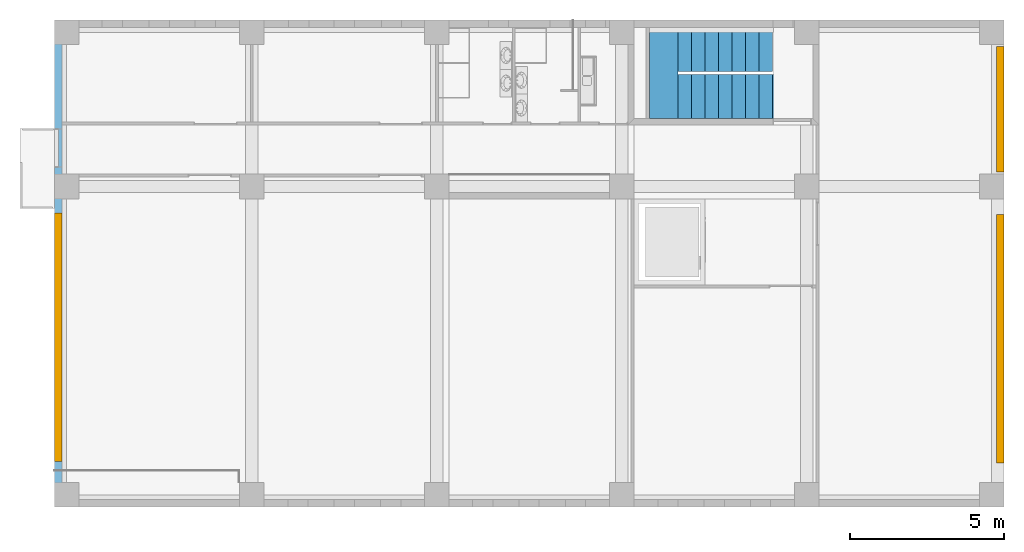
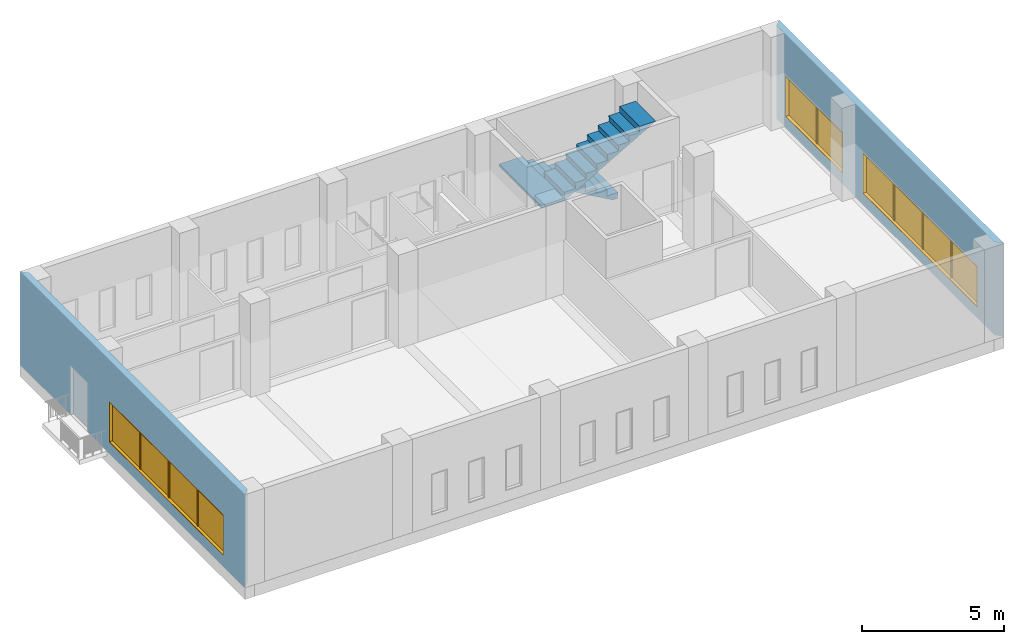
# One storey, part 5 of 14: 3 windows, 1 stair, 4 openings, plus 2 elements that do not belong to this part.
"""IFC2X3 building model written with IfcOpenShell, lengths in millimetres."""

import ifcopenshell
import ifcopenshell.guid

model = None  # the IFC model being written
_history = None  # IfcOwnerHistory: only IFC2X3 demands one
_inside = {}  # id of a spatial element -> (the spatial element, [elements in it])
_under = {}  # id of a project, library or spatial element -> (it, [spatial elements below it])
_declared = {}  # id of a project -> (the project, [libraries it declares])
_typed = {}  # id of a type object -> (the type object, [elements of that type])
_made_of = {}  # id of a material, layer set ... -> (it, [elements and type objects made of it])


def new_model(schema):
    """Start an empty IFC model of exactly this schema.

    Asked for "IFC4X3", IfcOpenShell would pick the latest addendum, in which some entities
    have other attributes; the version numbers below select the first issue.
    IFC2X3 requires an IfcOwnerHistory on every rooted entity: one is made here for all.
    """
    global model, _history
    if schema == "IFC4X3":
        model = ifcopenshell.file(schema_version=(4, 3, 0, 0))
    else:
        model = ifcopenshell.file(schema=schema)
    _inside.clear()
    _under.clear()
    _declared.clear()
    _typed.clear()
    _made_of.clear()
    _history = None
    if model.schema == "IFC2X3":
        org = make("IfcOrganization", Name="unknown")
        user = make(
            "IfcPersonAndOrganization",
            ThePerson=make("IfcPerson", FamilyName="unknown"),
            TheOrganization=org,
        )
        app = make(
            "IfcApplication",
            ApplicationDeveloper=org,
            Version="unknown",
            ApplicationFullName="unknown",
            ApplicationIdentifier="unknown",
        )
        _history = make(
            "IfcOwnerHistory",
            OwningUser=user,
            OwningApplication=app,
            ChangeAction="ADDED",
            CreationDate=0,
        )
    return model


def make(cls, **values):
    """One entity of the class cls with the attributes given. An attribute that is None is left unset."""
    return model.create_entity(
        cls, **{name: value for name, value in values.items() if value is not None}
    )


def entity(cls, *values):
    """Any entity or typed value of the class cls, its attributes in the order of the schema. None: left unset."""
    e = model.create_entity(cls)
    for i, value in enumerate(values):
        if value is not None:
            e[i] = value
    return e


def rooted(cls, **values):
    """An entity with a GlobalId (a new one), such as an element, a storey or a relation."""
    return make(cls, GlobalId=ifcopenshell.guid.new(), OwnerHistory=_history, **values)


def si_unit(unit_type, name, prefix=None):
    """IfcSIUnit, for example si_unit("LENGTHUNIT", "METRE", prefix="MILLI")."""
    return make("IfcSIUnit", UnitType=unit_type, Prefix=prefix, Name=name)


def converted_unit(unit_type, name, factor, base, dimensions=None, offset=None):
    """IfcConversionBasedUnit, such as the inch: factor (a typed value) times the base unit."""
    return make(
        "IfcConversionBasedUnit"
        if offset is None
        else "IfcConversionBasedUnitWithOffset",
        ConversionOffset=offset,
        Dimensions=None
        if dimensions is None
        else entity("IfcDimensionalExponents", *dimensions),
        UnitType=unit_type,
        Name=name,
        ConversionFactor=make(
            "IfcMeasureWithUnit", ValueComponent=factor, UnitComponent=base
        ),
    )


def assignment(units):
    """IfcUnitAssignment: the units of a project."""
    return None if units is None else make("IfcUnitAssignment", Units=units)


def point(xyz):
    """IfcCartesianPoint."""
    return None if xyz is None else make("IfcCartesianPoint", Coordinates=xyz)


def direction(xyz):
    """IfcDirection."""
    return None if xyz is None else make("IfcDirection", DirectionRatios=xyz)


def frame(location, z_axis=None, x_axis=None):
    """IfcAxis2Placement3D, a coordinate frame: its origin and axes. An axis left out is left unset."""
    return make(
        "IfcAxis2Placement3D",
        Location=point(location),
        Axis=direction(z_axis),
        RefDirection=direction(x_axis),
    )


def frame_2d(location, x_axis=None):
    """IfcAxis2Placement2D, a coordinate frame in the plane: its origin and x axis."""
    return make(
        "IfcAxis2Placement2D", Location=point(location), RefDirection=direction(x_axis)
    )


def origin_with_axes():
    """The frame at (0, 0, 0) with the z axis (0, 0, 1) and the x axis (1, 0, 0) written out."""
    return frame((0.0, 0.0, 0.0), z_axis=(0.0, 0.0, 1.0), x_axis=(1.0, 0.0, 0.0))


def origin_2d_with_axis():
    """The frame at (0, 0) in the plane with the x axis (1, 0) written out."""
    return frame_2d((0.0, 0.0), x_axis=(1.0, 0.0))


def place(relative_to, where):
    """IfcLocalPlacement: puts the frame where relative to a parent placement (None: the world)."""
    return make(
        "IfcLocalPlacement", PlacementRelTo=relative_to, RelativePlacement=where
    )


def context(
    kind, dimensions, precision=None, world=None, true_north=None, identifier=None
):
    """IfcGeometricRepresentationContext, for example the 3D "Model" context."""
    return make(
        "IfcGeometricRepresentationContext",
        ContextIdentifier=identifier,
        ContextType=kind,
        CoordinateSpaceDimension=dimensions,
        Precision=precision,
        WorldCoordinateSystem=world,
        TrueNorth=true_north,
    )


def project(units=None, contexts=None):
    """IfcProject with its units and contexts."""
    return rooted(
        "IfcProject",
        Name="project",
        RepresentationContexts=contexts,
        UnitsInContext=assignment(units),
    )


def spatial(cls, under=None, at=None, **own):
    """A site, building, storey or space (cls), placed at a placement, below another one or the project."""
    s = rooted(cls, ObjectPlacement=at, **own)
    if under is not None:
        _under.setdefault(under.id(), (under, []))[1].append(s)
    return s


def polyline(points):
    """IfcPolyline through the points."""
    return make("IfcPolyline", Points=[point(p) for p in points])


def profile(cls, at=None, kind="AREA", **sizes):
    """A parametric profile (cls). Its sizes go by their IFC names, for example OverallWidth=200.0."""
    return make(cls, ProfileType=kind, Position=at, **sizes)


def rectangle(**sizes):
    """IfcRectangleProfileDef."""
    return profile("IfcRectangleProfileDef", **sizes)


def outline(outer, holes=None, kind="AREA"):
    """IfcArbitraryClosedProfileDef: a profile drawn as a closed curve; with holes, ...WithVoids."""
    if holes is None:
        return make("IfcArbitraryClosedProfileDef", ProfileType=kind, OuterCurve=outer)
    return make(
        "IfcArbitraryProfileDefWithVoids",
        ProfileType=kind,
        OuterCurve=outer,
        InnerCurves=holes,
    )


def extrude(swept, where, along, depth):
    """IfcExtrudedAreaSolid: the profile swept, set in the frame where, extruded along a direction by depth."""
    return make(
        "IfcExtrudedAreaSolid",
        SweptArea=swept,
        Position=where,
        ExtrudedDirection=direction(along),
        Depth=depth,
    )


def faces_of(points, faces, orient=None, outer=None):
    """IfcFace entities. A face is a list of loops; a loop is a list of indices into points, from 0.

    orient and outer hold one flag for each loop. By default every Orientation is true, the
    first loop of a face is its IfcFaceOuterBound and the others are IfcFaceBound.
    """
    made = []
    for i, loops in enumerate(faces):
        bounds = []
        for j, loop in enumerate(loops):
            is_outer = j == 0 if outer is None else outer[i][j]
            bounds.append(
                make(
                    "IfcFaceOuterBound" if is_outer else "IfcFaceBound",
                    Bound=make("IfcPolyLoop", Polygon=[points[k] for k in loop]),
                    Orientation=True if orient is None else orient[i][j],
                )
            )
        made.append(make("IfcFace", Bounds=bounds))
    return made


def open_shell(faces, orient=None, outer=None):
    """The faces of one IfcOpenShell. surface_model builds it on its shared points."""
    return ("IfcOpenShell", faces, orient, outer)


def faceted_brep(points, faces, orient=None, outer=None, voids=None):
    """IfcFacetedBrep: a solid bounded by flat faces; with voids (closed shells), ...WithVoids."""
    shared = [point(p) for p in points]
    hull = make("IfcClosedShell", CfsFaces=faces_of(shared, faces, orient, outer))
    if voids is None:
        return make("IfcFacetedBrep", Outer=hull)
    return make(
        "IfcFacetedBrepWithVoids",
        Outer=hull,
        Voids=[
            make(cls, CfsFaces=faces_of(shared, fs, o, b)) for cls, fs, o, b in voids
        ],
    )


def surface_model(cls, points, shells):
    """IfcFaceBasedSurfaceModel or IfcShellBasedSurfaceModel (cls): surfaces that need not close."""
    shared = [point(p) for p in points]
    made = [make(c, CfsFaces=faces_of(shared, fs, o, b)) for c, fs, o, b in shells]
    if cls == "IfcFaceBasedSurfaceModel":
        return make(cls, FbsmFaces=made)
    return make(cls, SbsmBoundary=made)


def shape(context_of_items, identifier, shape_type, items):
    """IfcShapeRepresentation: the items that make up one representation, for example the "Body"."""
    return make(
        "IfcShapeRepresentation",
        ContextOfItems=context_of_items,
        RepresentationIdentifier=identifier,
        RepresentationType=shape_type,
        Items=items,
    )


def material(Name=None, Category=None):
    """IfcMaterial."""
    return make("IfcMaterial", Name=Name, Category=Category)


def layer(
    of_material, thickness, ventilated=None, Name=None, Category=None, Priority=None
):
    """IfcMaterialLayer: one layer of a wall or slab, of a material (None: an air gap)."""
    return make(
        "IfcMaterialLayer",
        Material=of_material,
        LayerThickness=thickness,
        IsVentilated=ventilated,
        Name=Name,
        Category=Category,
        Priority=Priority,
    )


def layer_set(layers, Name=None):
    """IfcMaterialLayerSet."""
    return make("IfcMaterialLayerSet", MaterialLayers=layers, LayerSetName=Name)


def layer_usage(for_layer_set, set_direction, sense, offset, extent=None):
    """IfcMaterialLayerSetUsage: how a layer set lies in its element."""
    return make(
        "IfcMaterialLayerSetUsage",
        ForLayerSet=for_layer_set,
        LayerSetDirection=set_direction,
        DirectionSense=sense,
        OffsetFromReferenceLine=offset,
        ReferenceExtent=extent,
    )


def made_of(thing, what):
    """Note that an element or type object is made of a material, layer set ...; save() writes the relation."""
    if what is not None:
        _made_of.setdefault(what.id(), (what, []))[1].append(thing)
    return thing


def type_object(cls, material=None, **own):
    """A type object (cls), such as IfcWallType, which elements share."""
    return made_of(rooted(cls, **own), material)


def element(
    cls,
    number,
    at=None,
    inside=None,
    cuts=None,
    type_object=None,
    material=None,
    context=None,
    identifier="Body",
    shape_type=None,
    held_by="IfcProductDefinitionShape",
    body=None,
    shapes=None,
    **own,
):
    """One element of the class cls, such as IfcWall. Its Tag is "e" and its number.

    at: its placement. inside: the storey or other place that contains it. cuts: it is an
    opening in that element (IfcRelVoidsElement). A single representation is given by context,
    identifier, shape_type and body (its items); several are given by shapes. held_by: the class
    of the entity that holds the representations. save() writes the other relations.
    """
    e = rooted(cls, Tag="e%d" % number, ObjectPlacement=at, **own)
    if body is not None:
        shapes = [shape(context, identifier, shape_type, body)]
    if shapes is not None:
        e.Representation = make(held_by, Representations=shapes)
    if inside is not None:
        _inside.setdefault(inside.id(), (inside, []))[1].append(e)
    if cuts is not None:
        rooted(
            "IfcRelVoidsElement", RelatingBuildingElement=cuts, RelatedOpeningElement=e
        )
    if type_object is not None:
        _typed.setdefault(type_object.id(), (type_object, []))[1].append(e)
    return made_of(e, material)


def fill(opening, filler):
    """IfcRelFillsElement: the door or window that sits in an opening."""
    return rooted(
        "IfcRelFillsElement",
        RelatingOpeningElement=opening,
        RelatedBuildingElement=filler,
    )


def aggregate(whole, parts):
    """IfcRelAggregates: a whole, such as a stair, and the parts it consists of."""
    return rooted("IfcRelAggregates", RelatingObject=whole, RelatedObjects=parts)


def save(model, path):
    """Write the relations noted so far, then the file.

    IfcRelAggregates (storeys below a building ...), IfcRelContainedInSpatialStructure (elements
    in a storey), IfcRelDefinesByType, IfcRelAssociatesMaterial and IfcRelDeclares: one each for
    every whole, place, type object, material and project.
    """
    for whole, parts in _under.values():
        aggregate(whole, parts)
    for where, things in _inside.values():
        rooted(
            "IfcRelContainedInSpatialStructure",
            RelatedElements=things,
            RelatingStructure=where,
        )
    for kind, things in _typed.values():
        rooted("IfcRelDefinesByType", RelatedObjects=things, RelatingType=kind)
    for what, things in _made_of.values():
        rooted("IfcRelAssociatesMaterial", RelatedObjects=things, RelatingMaterial=what)
    for by, libraries in _declared.values():
        rooted("IfcRelDeclares", RelatingContext=by, RelatedDefinitions=libraries)
    model.write(path)


model = new_model("IFC2X3")

# Units and contexts
model_context = context("Model", 3, precision=1e-05, world=origin_with_axes(), true_north=direction((0.0, 1.0)))
ifc_project = project(units=[si_unit("LENGTHUNIT", "METRE", prefix="MILLI"), si_unit("AREAUNIT", "SQUARE_METRE"), si_unit("VOLUMEUNIT", "CUBIC_METRE"), converted_unit("PLANEANGLEUNIT", "DEGREE", entity("IfcPlaneAngleMeasure", 0.017453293), si_unit("PLANEANGLEUNIT", "RADIAN"), dimensions=[0, 0, 0, 0, 0, 0, 0]), si_unit("SOLIDANGLEUNIT", "STERADIAN"), si_unit("MASSUNIT", "GRAM"), si_unit("TIMEUNIT", "SECOND"), si_unit("THERMODYNAMICTEMPERATUREUNIT", "DEGREE_CELSIUS"), si_unit("LUMINOUSINTENSITYUNIT", "LUMEN")], contexts=[model_context])

# Site, building, storey
site_placement = place(None, origin_with_axes())
site = spatial("IfcSite", under=ifc_project, at=site_placement, Name="\x83T\x83C\x83g", CompositionType="ELEMENT")
building_placement = place(site_placement, origin_with_axes())
building = spatial("IfcBuilding", under=site, at=building_placement, Name="Daitec-Sample 201208", CompositionType="ELEMENT")
storey_placement = place(building_placement, frame((0.0, 0.0, 8000.0), z_axis=(0.0, 0.0, 1.0), x_axis=(1.0, 0.0, 0.0)))
storey = spatial("IfcBuildingStorey", under=building, at=storey_placement, Name="3F", CompositionType="ELEMENT", Elevation=8000.0)

# Wall, openings, window
ifc_material_1 = material(Name="\x83R\x83\x93\x83N\x83\x8a\x81[\x83g-\x8d\\\x91¢2")
ifc_layer = layer(ifc_material_1, 250.0, ventilated="UNKNOWN")
ifc_layer_set = layer_set([ifc_layer], Name="\x83R\x83\x93\x83N\x83\x8a\x81[\x83g-\x8d\\\x91¢2 250")
ifc_layer_usage_1 = layer_usage(ifc_layer_set, "AXIS2", "POSITIVE", 0.0)
wall_type = type_object("IfcWallType", Name="\x83R\x83\x93\x83N\x83\x8a\x81[\x83g-\x8d\\\x91¢2 250", PredefinedType="NOTDEFINED")
wall_1_placement = place(storey_placement, frame((6100.0, 23800.0, 0.0), z_axis=(0.0, 0.0, 1.0), x_axis=(0.0, -1.0, 0.0)))
wall_1 = element("IfcWallStandardCase", 1, at=wall_1_placement, inside=storey, type_object=wall_type, material=ifc_layer_usage_1, Name="W9", context=model_context, shape_type="SweptSolid", body=[
    extrude(outline(polyline([(0.0, 0.0), (15800.0, 0.0), (15550.0, 250.0), (250.0, 250.0), (0.0, 0.0)])), origin_with_axes(), (0.0, 0.0, 1.0), 4000.0),
])
opening_1_placement = place(wall_1_placement, frame((10282.79, 0.0, 500.0), z_axis=(0.0, 0.0, 1.0), x_axis=(1.0, 0.0, 0.0)))
opening_1 = element("IfcOpeningElement", 2, at=opening_1_placement, cuts=wall_1, context=model_context, shape_type="SweptSolid", body=[
    extrude(rectangle(XDim=8000.0, YDim=1700.0, at=origin_2d_with_axis()), frame((0.0, 251.0, 850.0), z_axis=(0.0, -1.0, 0.0), x_axis=(1.0, 0.0, 0.0)), (0.0, 0.0, 1.0), 252.0),
    extrude(rectangle(XDim=8000.0, YDim=1700.0, at=origin_2d_with_axis()), frame((0.0, 249.0, 850.0), z_axis=(0.0, 1.0, 0.0), x_axis=(1.0, 0.0, 0.0)), (0.0, 0.0, 1.0), 252.0),
    extrude(rectangle(XDim=8060.0, YDim=1760.0, at=origin_2d_with_axis()), frame((0.0, 124.0, 850.0), z_axis=(0.0, 1.0, 0.0), x_axis=(1.0, 0.0, 0.0)), (0.0, 0.0, 1.0), 252.0),
])
opening_2_placement = place(wall_1_placement, frame((4155.9596, 0.0, 0.0), z_axis=(0.0, 0.0, 1.0), x_axis=(1.0, 0.0, 0.0)))
element("IfcOpeningElement", 3, at=opening_2_placement, cuts=wall_1, context=model_context, shape_type="SweptSolid", body=[
    extrude(rectangle(XDim=1260.0, YDim=2130.0, at=origin_2d_with_axis()), frame((0.0, 126.0, 1065.0), z_axis=(0.0, -1.0, 0.0), x_axis=(1.0, 0.0, 0.0)), (0.0, 0.0, 1.0), 252.0),
])
ifc_material_2 = material(Name="\x94w\x8ci")
window_style = type_object("IfcWindowStyle", Name="\x98A\x91\x95\x91\x8b\x82P_JX5", ConstructionType="NOTDEFINED", OperationType="NOTDEFINED", ParameterTakesPrecedence=False, Sizeable=False)
window_1_placement = place(opening_1_placement, frame((4000.0, 0.0, 0.0), z_axis=(0.0, 0.0, 1.0), x_axis=(-1.0, 0.0, 0.0)))
window_1 = element("IfcWindow", 4, at=window_1_placement, inside=storey, type_object=window_style, material=ifc_material_2, Name="AW6", OverallHeight=1700.0, OverallWidth=8000.0, context=model_context, shape_type="SurfaceModel", body=[
    surface_model("IfcShellBasedSurfaceModel", [(8000.0, -125.0, 0.0), (8000.0, -125.0, 1700.0), (6052.5, -125.0, 1700.0), (6052.5, -125.0, 0.0)], [open_shell([[[0, 1, 2, 3]]])]),
    surface_model("IfcShellBasedSurfaceModel", [(5982.5, -125.0, 0.0), (5982.5, -125.0, 1700.0), (4035.0, -125.0, 1700.0), (4035.0, -125.0, 0.0)], [open_shell([[[0, 1, 2, 3]]])]),
    surface_model("IfcShellBasedSurfaceModel", [(3965.0, -125.0, 0.0), (3965.0, -125.0, 1700.0), (2017.5, -125.0, 1700.0), (2017.5, -125.0, 0.0)], [open_shell([[[0, 1, 2, 3]]])]),
    surface_model("IfcShellBasedSurfaceModel", [(1947.5, -125.0, 0.0), (1947.5, -125.0, 1700.0), (0.0, -125.0, 1700.0), (0.0, -125.0, 0.0)], [open_shell([[[0, 1, 2, 3]]])]),
    faceted_brep([(6052.5, -90.0, 0.0), (5982.5, -90.0, 0.0), (5982.5, -90.0, 1700.0), (6052.5, -90.0, 1700.0), (6052.5, -160.0, 0.0), (5982.5, -160.0, 0.0), (5982.5, -160.0, 1700.0), (6052.5, -160.0, 1700.0)], [[[0, 1, 2, 3]], [[0, 4, 5, 1]], [[1, 5, 6, 2]], [[3, 2, 6, 7]], [[4, 0, 3, 7]], [[5, 4, 7, 6]]]),
    faceted_brep([(4035.0, -90.0, 0.0), (3965.0, -90.0, 0.0), (3965.0, -90.0, 1700.0), (4035.0, -90.0, 1700.0), (4035.0, -160.0, 0.0), (3965.0, -160.0, 0.0), (3965.0, -160.0, 1700.0), (4035.0, -160.0, 1700.0)], [[[0, 1, 2, 3]], [[0, 4, 5, 1]], [[1, 5, 6, 2]], [[3, 2, 6, 7]], [[4, 0, 3, 7]], [[5, 4, 7, 6]]]),
    faceted_brep([(2017.5, -90.0, 0.0), (1947.5, -90.0, 0.0), (1947.5, -90.0, 1700.0), (2017.5, -90.0, 1700.0), (2017.5, -160.0, 0.0), (1947.5, -160.0, 0.0), (1947.5, -160.0, 1700.0), (2017.5, -160.0, 1700.0)], [[[0, 1, 2, 3]], [[0, 4, 5, 1]], [[1, 5, 6, 2]], [[3, 2, 6, 7]], [[4, 0, 3, 7]], [[5, 4, 7, 6]]]),
    surface_model("IfcShellBasedSurfaceModel", [(8030.0, -250.0, -30.0), (8030.0, -250.0, 1730.0), (-30.0, -250.0, 1730.0), (-30.0, -250.0, -30.0), (8000.0, -250.0, 0.0), (0.0, -250.0, 0.0), (0.0, -250.0, 1700.0), (8000.0, -250.0, 1700.0)], [open_shell([[[0, 1, 2, 3], [4, 5, 6, 7]]])]),
    surface_model("IfcShellBasedSurfaceModel", [(8030.0, 0.0, -30.0), (8030.0, 0.0, 1730.0), (-30.0, 0.0, 1730.0), (-30.0, 0.0, -30.0), (8000.0, 0.0, 0.0), (0.0, 0.0, 0.0), (0.0, 0.0, 1700.0), (8000.0, 0.0, 1700.0)], [open_shell([[[0, 1, 2, 3], [4, 5, 6, 7]]])]),
    surface_model("IfcShellBasedSurfaceModel", [(8030.0, -250.0, -30.0), (-30.0, -250.0, -30.0), (-30.0, 0.0, -30.0), (8030.0, 0.0, -30.0), (-30.0, -250.0, 1730.0), (-30.0, 0.0, 1730.0), (8030.0, -250.0, 1730.0), (8030.0, 0.0, 1730.0)], [open_shell([[[0, 1, 2, 3]], [[1, 4, 5, 2]], [[6, 0, 3, 7]], [[4, 6, 7, 5]]])]),
    surface_model("IfcShellBasedSurfaceModel", [(8000.0, -250.0, 0.0), (0.0, -250.0, 0.0), (0.0, 0.0, 0.0), (8000.0, 0.0, 0.0), (0.0, -250.0, 1700.0), (0.0, 0.0, 1700.0), (8000.0, -250.0, 1700.0), (8000.0, 0.0, 1700.0)], [open_shell([[[0, 1, 2, 3]], [[1, 4, 5, 2]], [[6, 0, 3, 7]], [[4, 6, 7, 5]]])]),
])
fill(opening_1, window_1)

# Wall, openings, windows
ifc_layer_usage_2 = layer_usage(ifc_layer_set, "AXIS2", "POSITIVE", 0.0)
wall_2_placement = place(storey_placement, frame((36900.0, 8000.0, 0.0), z_axis=(0.0, 0.0, 1.0), x_axis=(0.0, 1.0, 0.0)))
wall_2 = element("IfcWallStandardCase", 5, at=wall_2_placement, inside=storey, type_object=wall_type, material=ifc_layer_usage_2, Name="W7", context=model_context, shape_type="SweptSolid", body=[
    extrude(outline(polyline([(0.0, 0.0), (15800.0, 0.0), (15550.0, 250.0), (250.0, 250.0), (0.0, 0.0)])), origin_with_axes(), (0.0, 0.0, 1.0), 4000.0),
])
opening_3_placement = place(wall_2_placement, frame((5462.7727, 0.0, 500.0), z_axis=(0.0, 0.0, 1.0), x_axis=(1.0, 0.0, 0.0)))
opening_3 = element("IfcOpeningElement", 6, at=opening_3_placement, cuts=wall_2, context=model_context, shape_type="SweptSolid", body=[
    extrude(rectangle(XDim=8000.0, YDim=1700.0, at=origin_2d_with_axis()), frame((0.0, -1.0, 850.0), z_axis=(0.0, 1.0, 0.0), x_axis=(1.0, 0.0, 0.0)), (0.0, 0.0, 1.0), 252.0),
    extrude(rectangle(XDim=8000.0, YDim=1700.0, at=origin_2d_with_axis()), frame((0.0, 1.0, 850.0), z_axis=(0.0, -1.0, 0.0), x_axis=(1.0, 0.0, 0.0)), (0.0, 0.0, 1.0), 252.0),
    extrude(rectangle(XDim=8060.0, YDim=1760.0, at=origin_2d_with_axis()), frame((0.0, 126.0, 850.0), z_axis=(0.0, -1.0, 0.0), x_axis=(1.0, 0.0, 0.0)), (0.0, 0.0, 1.0), 252.0),
])
opening_4_placement = place(wall_2_placement, frame((12905.211, 0.0, 500.0), z_axis=(0.0, 0.0, 1.0), x_axis=(1.0, 0.0, 0.0)))
opening_4 = element("IfcOpeningElement", 7, at=opening_4_placement, cuts=wall_2, context=model_context, shape_type="SweptSolid", body=[
    extrude(rectangle(XDim=4000.0, YDim=1700.0, at=origin_2d_with_axis()), frame((0.0, 59.0, 850.0), z_axis=(0.0, 1.0, 0.0), x_axis=(1.0, 0.0, 0.0)), (0.0, 0.0, 1.0), 252.0),
    extrude(rectangle(XDim=4000.0, YDim=1700.0, at=origin_2d_with_axis()), frame((0.0, 61.0, 850.0), z_axis=(0.0, -1.0, 0.0), x_axis=(1.0, 0.0, 0.0)), (0.0, 0.0, 1.0), 252.0),
    extrude(rectangle(XDim=4060.0, YDim=1760.0, at=origin_2d_with_axis()), frame((0.0, 186.0, 850.0), z_axis=(0.0, -1.0, 0.0), x_axis=(1.0, 0.0, 0.0)), (0.0, 0.0, 1.0), 252.0),
])
window_2_placement = place(opening_3_placement, frame((-4000.0, 0.0, 0.0), z_axis=(0.0, 0.0, 1.0), x_axis=(1.0, 0.0, 0.0)))
window_2 = element("IfcWindow", 8, at=window_2_placement, inside=storey, type_object=window_style, material=ifc_material_2, Name="AW7", OverallHeight=1700.0, OverallWidth=8000.0, context=model_context, shape_type="SurfaceModel", body=[
    surface_model("IfcShellBasedSurfaceModel", [(8000.0, 125.0, 0.0), (8000.0, 125.0, 1700.0), (6052.5, 125.0, 1700.0), (6052.5, 125.0, 0.0)], [open_shell([[[0, 1, 2, 3]]])]),
    surface_model("IfcShellBasedSurfaceModel", [(5982.5, 125.0, 0.0), (5982.5, 125.0, 1700.0), (4035.0, 125.0, 1700.0), (4035.0, 125.0, 0.0)], [open_shell([[[0, 1, 2, 3]]])]),
    surface_model("IfcShellBasedSurfaceModel", [(3965.0, 125.0, 0.0), (3965.0, 125.0, 1700.0), (2017.5, 125.0, 1700.0), (2017.5, 125.0, 0.0)], [open_shell([[[0, 1, 2, 3]]])]),
    surface_model("IfcShellBasedSurfaceModel", [(1947.5, 125.0, 0.0), (1947.5, 125.0, 1700.0), (0.0, 125.0, 1700.0), (0.0, 125.0, 0.0)], [open_shell([[[0, 1, 2, 3]]])]),
    faceted_brep([(6052.5, 160.0, 0.0), (5982.5, 160.0, 0.0), (5982.5, 160.0, 1700.0), (6052.5, 160.0, 1700.0), (6052.5, 90.0, 0.0), (5982.5, 90.0, 0.0), (5982.5, 90.0, 1700.0), (6052.5, 90.0, 1700.0)], [[[0, 1, 2, 3]], [[0, 4, 5, 1]], [[1, 5, 6, 2]], [[3, 2, 6, 7]], [[4, 0, 3, 7]], [[5, 4, 7, 6]]]),
    faceted_brep([(4035.0, 160.0, 0.0), (3965.0, 160.0, 0.0), (3965.0, 160.0, 1700.0), (4035.0, 160.0, 1700.0), (4035.0, 90.0, 0.0), (3965.0, 90.0, 0.0), (3965.0, 90.0, 1700.0), (4035.0, 90.0, 1700.0)], [[[0, 1, 2, 3]], [[0, 4, 5, 1]], [[1, 5, 6, 2]], [[3, 2, 6, 7]], [[4, 0, 3, 7]], [[5, 4, 7, 6]]]),
    faceted_brep([(2017.5, 160.0, 0.0), (1947.5, 160.0, 0.0), (1947.5, 160.0, 1700.0), (2017.5, 160.0, 1700.0), (2017.5, 90.0, 0.0), (1947.5, 90.0, 0.0), (1947.5, 90.0, 1700.0), (2017.5, 90.0, 1700.0)], [[[0, 1, 2, 3]], [[0, 4, 5, 1]], [[1, 5, 6, 2]], [[3, 2, 6, 7]], [[4, 0, 3, 7]], [[5, 4, 7, 6]]]),
    surface_model("IfcShellBasedSurfaceModel", [(8030.0, 0.0, -30.0), (8030.0, 0.0, 1730.0), (-30.0, 0.0, 1730.0), (-30.0, 0.0, -30.0), (8000.0, 0.0, 0.0), (0.0, 0.0, 0.0), (0.0, 0.0, 1700.0), (8000.0, 0.0, 1700.0)], [open_shell([[[0, 1, 2, 3], [4, 5, 6, 7]]])]),
    surface_model("IfcShellBasedSurfaceModel", [(8030.0, 250.0, -30.0), (8030.0, 250.0, 1730.0), (-30.0, 250.0, 1730.0), (-30.0, 250.0, -30.0), (8000.0, 250.0, 0.0), (0.0, 250.0, 0.0), (0.0, 250.0, 1700.0), (8000.0, 250.0, 1700.0)], [open_shell([[[0, 1, 2, 3], [4, 5, 6, 7]]])]),
    surface_model("IfcShellBasedSurfaceModel", [(8030.0, 0.0, -30.0), (-30.0, 0.0, -30.0), (-30.0, 250.0, -30.0), (8030.0, 250.0, -30.0), (-30.0, 0.0, 1730.0), (-30.0, 250.0, 1730.0), (8030.0, 0.0, 1730.0), (8030.0, 250.0, 1730.0)], [open_shell([[[0, 1, 2, 3]], [[1, 4, 5, 2]], [[6, 0, 3, 7]], [[4, 6, 7, 5]]])]),
    surface_model("IfcShellBasedSurfaceModel", [(8000.0, 0.0, 0.0), (0.0, 0.0, 0.0), (0.0, 250.0, 0.0), (8000.0, 250.0, 0.0), (0.0, 0.0, 1700.0), (0.0, 250.0, 1700.0), (8000.0, 0.0, 1700.0), (8000.0, 250.0, 1700.0)], [open_shell([[[0, 1, 2, 3]], [[1, 4, 5, 2]], [[6, 0, 3, 7]], [[4, 6, 7, 5]]])]),
])
fill(opening_3, window_2)
window_3_placement = place(opening_4_placement, frame((-2000.0, 0.0, 0.0), z_axis=(0.0, 0.0, 1.0), x_axis=(1.0, 0.0, 0.0)))
window_3 = element("IfcWindow", 9, at=window_3_placement, inside=storey, type_object=window_style, material=ifc_material_2, Name="AW8", OverallHeight=1700.0, OverallWidth=4000.0, context=model_context, shape_type="SurfaceModel", body=[
    surface_model("IfcShellBasedSurfaceModel", [(4000.0, 125.0, 0.0), (4000.0, 125.0, 1700.0), (2035.0, 125.0, 1700.0), (2035.0, 125.0, 0.0)], [open_shell([[[0, 1, 2, 3]]])]),
    surface_model("IfcShellBasedSurfaceModel", [(1965.0, 125.0, 0.0), (1965.0, 125.0, 1700.0), (0.0, 125.0, 1700.0), (0.0, 125.0, 0.0)], [open_shell([[[0, 1, 2, 3]]])]),
    faceted_brep([(2035.0, 160.0, 0.0), (1965.0, 160.0, 0.0), (1965.0, 160.0, 1700.0), (2035.0, 160.0, 1700.0), (2035.0, 90.0, 0.0), (1965.0, 90.0, 0.0), (1965.0, 90.0, 1700.0), (2035.0, 90.0, 1700.0)], [[[0, 1, 2, 3]], [[0, 4, 5, 1]], [[1, 5, 6, 2]], [[3, 2, 6, 7]], [[4, 0, 3, 7]], [[5, 4, 7, 6]]]),
    surface_model("IfcShellBasedSurfaceModel", [(4030.0, 0.0, -30.0), (4030.0, 0.0, 1730.0), (-30.0, 0.0, 1730.0), (-30.0, 0.0, -30.0), (4000.0, 0.0, 0.0), (0.0, 0.0, 0.0), (0.0, 0.0, 1700.0), (4000.0, 0.0, 1700.0)], [open_shell([[[0, 1, 2, 3], [4, 5, 6, 7]]])]),
    surface_model("IfcShellBasedSurfaceModel", [(4030.0, 250.0, -30.0), (4030.0, 250.0, 1730.0), (-30.0, 250.0, 1730.0), (-30.0, 250.0, -30.0), (4000.0, 250.0, 0.0), (0.0, 250.0, 0.0), (0.0, 250.0, 1700.0), (4000.0, 250.0, 1700.0)], [open_shell([[[0, 1, 2, 3], [4, 5, 6, 7]]])]),
    surface_model("IfcShellBasedSurfaceModel", [(4030.0, 0.0, -30.0), (-30.0, 0.0, -30.0), (-30.0, 250.0, -30.0), (4030.0, 250.0, -30.0), (-30.0, 0.0, 1730.0), (-30.0, 250.0, 1730.0), (4030.0, 0.0, 1730.0), (4030.0, 250.0, 1730.0)], [open_shell([[[0, 1, 2, 3]], [[1, 4, 5, 2]], [[6, 0, 3, 7]], [[4, 6, 7, 5]]])]),
    surface_model("IfcShellBasedSurfaceModel", [(4000.0, 0.0, 0.0), (0.0, 0.0, 0.0), (0.0, 250.0, 0.0), (4000.0, 250.0, 0.0), (0.0, 0.0, 1700.0), (0.0, 250.0, 1700.0), (4000.0, 0.0, 1700.0), (4000.0, 250.0, 1700.0)], [open_shell([[[0, 1, 2, 3]], [[1, 4, 5, 2]], [[6, 0, 3, 7]], [[4, 6, 7, 5]]])]),
])
fill(opening_4, window_3)

# Stair
stair_placement = place(storey_placement, frame((29393.973, 23550.0, 0.0), z_axis=(0.0, 0.0, 1.0), x_axis=(0.0, 1.0, 0.0)))
element("IfcStair", 10, at=stair_placement, inside=storey, material=ifc_material_2, Name="K3", ShapeType="NOTDEFINED", context=model_context, shape_type="Brep", body=[
    faceted_brep([(0.0, 0.0, 0.0), (-1425.0, 0.0, 0.0), (-1425.0, 221.43142, 0.0), (0.0, 221.43142, 0.0), (0.0, 20.0, 0.0), (-1425.0, 20.0, 0.0), (-1425.0, 0.0, 250.0), (-1425.0, 457.13996, 250.0), (-1425.0, 437.13996, 500.0), (-1425.0, 894.27993, 500.0), (-1425.0, 874.27993, 750.0), (-1425.0, 1331.4199, 750.0), (-1425.0, 1311.4199, 1000.0), (-1425.0, 1768.5599, 1000.0), (-1425.0, 1748.5599, 1250.0), (-1425.0, 2205.6998, 1250.0), (-1425.0, 2185.6998, 1500.0), (-1425.0, 2642.8398, 1500.0), (-1425.0, 2622.8398, 1750.0), (-1425.0, 3059.9798, 1750.0), (-1425.0, 3059.9798, 2000.0), (-1425.0, 3059.9798, 1900.0), (-1425.0, 3543.6951, 1900.0), (0.0, 3543.6951, 1900.0), (0.0, 3059.9798, 1900.0), (0.0, 3059.9798, 2000.0), (0.0, 3059.9798, 1750.0), (0.0, 2622.8398, 1750.0), (0.0, 2642.8398, 1500.0), (0.0, 2185.6998, 1500.0), (0.0, 2205.6998, 1250.0), (0.0, 1748.5599, 1250.0), (0.0, 1768.5599, 1000.0), (0.0, 1311.4199, 1000.0), (0.0, 1331.4199, 750.0), (0.0, 874.27993, 750.0), (0.0, 894.27993, 500.0), (0.0, 437.13996, 500.0), (0.0, 457.13996, 250.0), (0.0, 0.0, 250.0)], [[[0, 1, 2, 3]], [[4, 5, 1, 0]], [[1, 5, 6, 7, 8, 9, 10, 11, 12, 13, 14, 15, 16, 17, 18, 19, 20, 21, 22, 2]], [[3, 2, 22, 23]], [[0, 3, 23, 24, 25, 26, 27, 28, 29, 30, 31, 32, 33, 34, 35, 36, 37, 38, 39, 4]], [[39, 6, 5, 4]], [[38, 7, 6, 39]], [[37, 8, 7, 38]], [[36, 9, 8, 37]], [[35, 10, 9, 36]], [[34, 11, 10, 35]], [[33, 12, 11, 34]], [[32, 13, 12, 33]], [[31, 14, 13, 32]], [[30, 15, 14, 31]], [[29, 16, 15, 30]], [[28, 17, 16, 29]], [[27, 18, 17, 28]], [[26, 19, 18, 27]], [[25, 20, 19, 26]], [[24, 21, 20, 25]], [[23, 22, 21, 24]]]),
    faceted_brep([(-2950.0, 3059.9798, 1900.0), (-1525.0, 3059.9798, 1900.0), (-1525.0, 3013.4043, 1900.0), (-2950.0, 3013.4043, 1900.0), (-2950.0, 3059.9798, 2000.0), (-1525.0, 3059.9798, 2000.0), (-1525.0, 3039.9798, 2000.0), (-1525.0, 3059.9798, 2250.0), (-1525.0, 2602.8398, 2250.0), (-1525.0, 2622.8398, 2500.0), (-1525.0, 2165.6998, 2500.0), (-1525.0, 2185.6998, 2750.0), (-1525.0, 1728.5599, 2750.0), (-1525.0, 1748.5599, 3000.0), (-1525.0, 1291.4199, 3000.0), (-1525.0, 1311.4199, 3250.0), (-1525.0, 854.27993, 3250.0), (-1525.0, 874.27993, 3500.0), (-1525.0, 417.13996, 3500.0), (-1525.0, 437.13996, 3750.0), (-1525.0, 0.0, 3750.0), (-1525.0, 0.0, 4000.0), (-1525.0, -658.57138, 4000.0), (-2950.0, -658.57138, 4000.0), (-2950.0, 0.0, 4000.0), (-2950.0, 0.0, 3750.0), (-2950.0, 437.13996, 3750.0), (-2950.0, 417.13996, 3500.0), (-2950.0, 874.27993, 3500.0), (-2950.0, 854.27993, 3250.0), (-2950.0, 1311.4199, 3250.0), (-2950.0, 1291.4199, 3000.0), (-2950.0, 1748.5599, 3000.0), (-2950.0, 1728.5599, 2750.0), (-2950.0, 2185.6998, 2750.0), (-2950.0, 2165.6998, 2500.0), (-2950.0, 2622.8398, 2500.0), (-2950.0, 2602.8398, 2250.0), (-2950.0, 3059.9798, 2250.0), (-2950.0, 3039.9798, 2000.0)], [[[0, 1, 2, 3]], [[4, 5, 1, 0]], [[1, 5, 6, 7, 8, 9, 10, 11, 12, 13, 14, 15, 16, 17, 18, 19, 20, 21, 22, 2]], [[3, 2, 22, 23]], [[0, 3, 23, 24, 25, 26, 27, 28, 29, 30, 31, 32, 33, 34, 35, 36, 37, 38, 39, 4]], [[39, 6, 5, 4]], [[38, 7, 6, 39]], [[37, 8, 7, 38]], [[36, 9, 8, 37]], [[35, 10, 9, 36]], [[34, 11, 10, 35]], [[33, 12, 11, 34]], [[32, 13, 12, 33]], [[31, 14, 13, 32]], [[30, 15, 14, 31]], [[29, 16, 15, 30]], [[28, 17, 16, 29]], [[27, 18, 17, 28]], [[26, 19, 18, 27]], [[25, 20, 19, 26]], [[24, 21, 20, 25]], [[23, 22, 21, 24]]]),
    faceted_brep([(0.0, 3059.9798, 1900.0), (0.0, 3059.9798, 2000.0), (-1425.0, 3059.9798, 2000.0), (-1425.0, 3059.9798, 1900.0), (0.0, 3543.6951, 1900.0), (0.0, 3543.6951, 2000.0), (0.0, 4000.0, 2000.0), (-2950.0, 4000.0, 2000.0), (-2950.0, 3059.9798, 2000.0), (-1525.0, 3059.9798, 2000.0), (-1525.0, 3059.9798, 1900.0), (-2950.0, 3059.9798, 1900.0), (-2950.0, 4000.0, 1900.0), (0.0, 4000.0, 1900.0)], [[[0, 1, 2, 3]], [[4, 5, 1, 0]], [[1, 5, 6, 7, 8, 9, 2]], [[3, 2, 9, 10]], [[0, 3, 10, 11, 12, 13, 4]], [[13, 6, 5, 4]], [[12, 7, 6, 13]], [[11, 8, 7, 12]], [[10, 9, 8, 11]]]),
])

save(model, "model.ifc")
